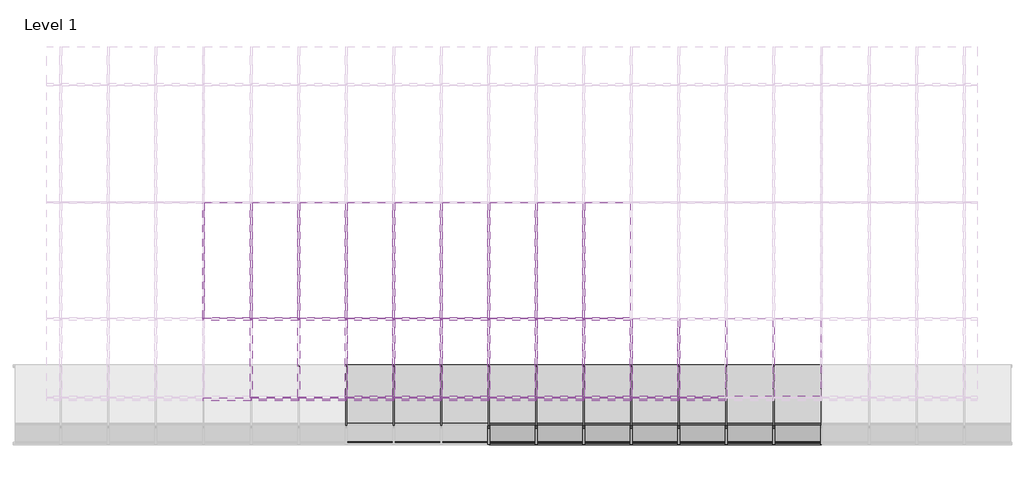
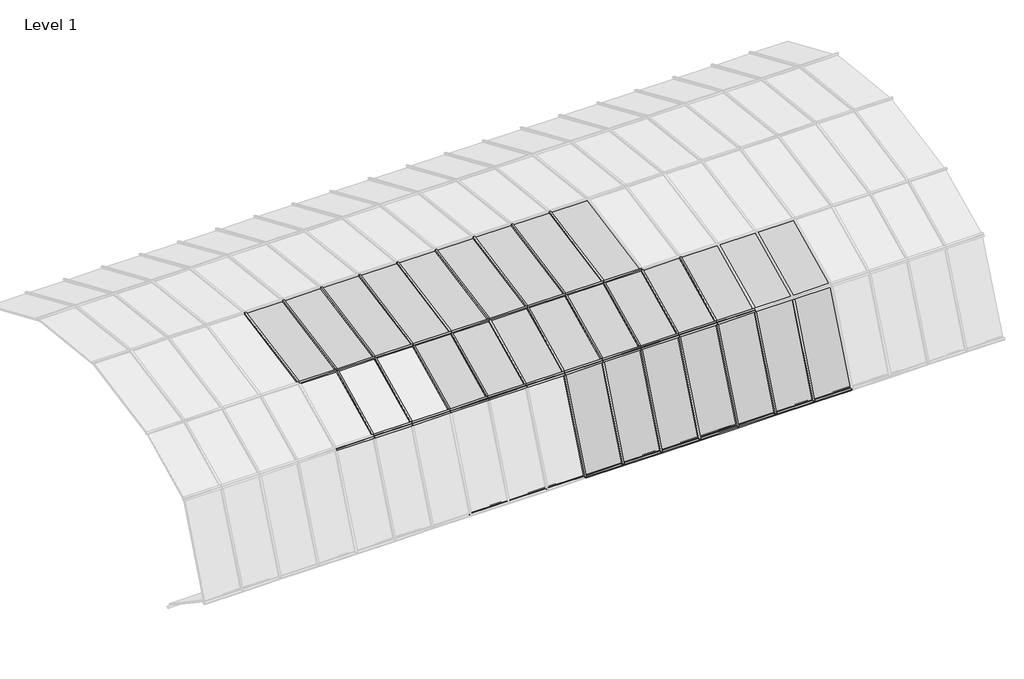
# One storey, part 18 of 23: 84 members, 36 plates.
"""IFC4 building model written with IfcOpenShell, lengths in millimetres."""

from ifc_helpers import new_model, si_unit, origin, place, context, project, spatial, transform, mapped, element, save
from components import member_68981e21, member_3e1f1dd8, member_0f8f75f6, member_42213d33, member_14e241b9, member_309acb9e, system_panel_glazed_51f493bd, system_panel_glazed_6e806f8e, system_panel_glazed_a1f64e1d, system_panel_glazed_3957fabc

model = new_model("IFC4")

# Units and contexts
model_context = context("Model", 3, world=origin())
ifc_project = project(units=[si_unit("LENGTHUNIT", "METRE", prefix="MILLI")], contexts=[model_context])

# Site, building, storey
site = spatial("IfcSite", under=ifc_project)
building = spatial("IfcBuilding", under=site)
storey = spatial("IfcBuildingStorey", under=building, Name="Level 1", Elevation=0.0)

# Members
placement = place(None, origin())
member_shape = member_68981e21(model_context)
element("IfcMember", 1, ObjectType="Rectangular Mullion : 1\" Square", at=placement, inside=storey, context=model_context, shape_type="MappedRepresentation", body=[
    mapped(member_shape, transform((-4426.5499814, 2539.8807303, 0.0), x_axis=(0.0, 0.8307182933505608, -0.5566930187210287), y_axis=(0.0, -0.5566930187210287, -0.8307182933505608), z_axis=(-1.0, 0.0, 0.0))),
])
element("IfcMember", 2, ObjectType="Rectangular Mullion : 1\" Square", at=placement, inside=storey, context=model_context, shape_type="MappedRepresentation", body=[
    mapped(member_shape, transform((-3816.9499814, 2539.8807303, 0.0), x_axis=(0.0, 0.8307182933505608, -0.5566930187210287), y_axis=(0.0, -0.5566930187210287, -0.8307182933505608), z_axis=(-1.0, 0.0, 0.0))),
])
element("IfcMember", 3, ObjectType="Rectangular Mullion : 1\" Square", at=placement, inside=storey, context=model_context, shape_type="MappedRepresentation", body=[
    mapped(member_shape, transform((-3207.3499814, 2539.8807303, 0.0), x_axis=(0.0, 0.8307182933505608, -0.5566930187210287), y_axis=(0.0, -0.5566930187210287, -0.8307182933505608), z_axis=(-1.0, 0.0, 0.0))),
])
element("IfcMember", 4, ObjectType="Rectangular Mullion : 1\" Square", at=placement, inside=storey, context=model_context, shape_type="MappedRepresentation", body=[
    mapped(member_shape, transform((-2597.7499814, 2539.8807303, 0.0), x_axis=(0.0, 0.8307182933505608, -0.5566930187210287), y_axis=(0.0, -0.5566930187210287, -0.8307182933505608), z_axis=(-1.0, 0.0, 0.0))),
])
element("IfcMember", 5, ObjectType="Rectangular Mullion : 1\" Square", at=placement, inside=storey, context=model_context, shape_type="MappedRepresentation", body=[
    mapped(member_shape, transform((-1988.1499814, 2539.8807303, 0.0), x_axis=(0.0, 0.8307182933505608, -0.5566930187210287), y_axis=(0.0, -0.5566930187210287, -0.8307182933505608), z_axis=(-1.0, 0.0, 0.0))),
])
element("IfcMember", 6, ObjectType="Rectangular Mullion : 1\" Square", at=placement, inside=storey, context=model_context, shape_type="MappedRepresentation", body=[
    mapped(member_shape, transform((-1378.5499814, 2539.8807303, 0.0), x_axis=(0.0, 0.8307182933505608, -0.5566930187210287), y_axis=(0.0, -0.5566930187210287, -0.8307182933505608), z_axis=(-1.0, 0.0, 0.0))),
])
element("IfcMember", 7, ObjectType="Rectangular Mullion : 1\" Square", at=placement, inside=storey, context=model_context, shape_type="MappedRepresentation", body=[
    mapped(member_shape, transform((-768.9499814, 2539.8807303, 0.0), x_axis=(0.0, 0.8307182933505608, -0.5566930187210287), y_axis=(0.0, -0.5566930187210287, -0.8307182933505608), z_axis=(-1.0, 0.0, 0.0))),
])
element("IfcMember", 8, ObjectType="Rectangular Mullion : 1\" Square", at=placement, inside=storey, context=model_context, shape_type="MappedRepresentation", body=[
    mapped(member_shape, transform((-159.3499814, 2539.8807303, 0.0), x_axis=(0.0, 0.8307182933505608, -0.5566930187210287), y_axis=(0.0, -0.5566930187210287, -0.8307182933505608), z_axis=(-1.0, 0.0, 0.0))),
])
element("IfcMember", 9, ObjectType="Rectangular Mullion : 1\" Square", at=placement, inside=storey, context=model_context, shape_type="MappedRepresentation", body=[
    mapped(member_shape, transform((-6255.3499814, 2539.8807303, 0.0), x_axis=(0.0, 0.8307182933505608, -0.5566930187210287), y_axis=(0.0, -0.5566930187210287, -0.8307182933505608), z_axis=(-1.0, 0.0, 0.0))),
])
element("IfcMember", 10, ObjectType="Rectangular Mullion : 1\" Square", at=placement, inside=storey, context=model_context, shape_type="MappedRepresentation", body=[
    mapped(member_shape, transform((-5645.7499814, 2539.8807303, 0.0), x_axis=(0.0, 0.8307182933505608, -0.5566930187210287), y_axis=(0.0, -0.5566930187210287, -0.8307182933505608), z_axis=(-1.0, 0.0, 0.0))),
])
element("IfcMember", 11, ObjectType="Rectangular Mullion : 1\" Square", at=placement, inside=storey, context=model_context, shape_type="MappedRepresentation", body=[
    mapped(member_shape, transform((-5036.1499814, 2539.8807303, 0.0), x_axis=(0.0, 0.8307182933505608, -0.5566930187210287), y_axis=(0.0, -0.5566930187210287, -0.8307182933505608), z_axis=(-1.0, 0.0, 0.0))),
])
element("IfcMember", 12, ObjectType="Rectangular Mullion : 1\" Square", at=placement, inside=storey, context=model_context, shape_type="MappedRepresentation", body=[
    mapped(member_shape, transform((-6864.9499814, 2108.5088854, 2085.6089632), x_axis=(0.0, -0.9009025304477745, -0.43402146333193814), y_axis=(0.0, -0.43402146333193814, 0.9009025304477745), z_axis=(-1.0, 0.0, 0.0))),
])
element("IfcMember", 13, ObjectType="Rectangular Mullion : 1\" Square", at=placement, inside=storey, context=model_context, shape_type="MappedRepresentation", body=[
    mapped(member_shape, transform((-6255.3499814, 2108.5088854, 2085.6089632), x_axis=(0.0, -0.9009025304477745, -0.43402146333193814), y_axis=(0.0, -0.43402146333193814, 0.9009025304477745), z_axis=(-1.0, 0.0, 0.0))),
])
element("IfcMember", 14, ObjectType="Rectangular Mullion : 1\" Square", at=placement, inside=storey, context=model_context, shape_type="MappedRepresentation", body=[
    mapped(member_shape, transform((-5645.7499814, 2108.5088854, 2085.6089632), x_axis=(0.0, -0.9009025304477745, -0.43402146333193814), y_axis=(0.0, -0.43402146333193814, 0.9009025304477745), z_axis=(-1.0, 0.0, 0.0))),
])
element("IfcMember", 15, ObjectType="Rectangular Mullion : 1\" Square", at=placement, inside=storey, context=model_context, shape_type="MappedRepresentation", body=[
    mapped(member_shape, transform((-5036.1499814, 2108.5088854, 2085.6089632), x_axis=(0.0, -0.9009025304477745, -0.43402146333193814), y_axis=(0.0, -0.43402146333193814, 0.9009025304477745), z_axis=(-1.0, 0.0, 0.0))),
])
element("IfcMember", 16, ObjectType="Rectangular Mullion : 1\" Square", at=placement, inside=storey, context=model_context, shape_type="MappedRepresentation", body=[
    mapped(member_shape, transform((-4426.5499814, 2108.5088854, 2085.6089632), x_axis=(0.0, -0.9009025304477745, -0.43402146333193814), y_axis=(0.0, -0.43402146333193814, 0.9009025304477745), z_axis=(-1.0, 0.0, 0.0))),
])
element("IfcMember", 17, ObjectType="Rectangular Mullion : 1\" Square", at=placement, inside=storey, context=model_context, shape_type="MappedRepresentation", body=[
    mapped(member_shape, transform((-3816.9499814, 2108.5088854, 2085.6089632), x_axis=(0.0, -0.9009025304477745, -0.43402146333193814), y_axis=(0.0, -0.43402146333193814, 0.9009025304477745), z_axis=(-1.0, 0.0, 0.0))),
])
element("IfcMember", 18, ObjectType="Rectangular Mullion : 1\" Square", at=placement, inside=storey, context=model_context, shape_type="MappedRepresentation", body=[
    mapped(member_shape, transform((-3207.3499814, 2108.5088854, 2085.6089632), x_axis=(0.0, -0.9009025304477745, -0.43402146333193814), y_axis=(0.0, -0.43402146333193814, 0.9009025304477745), z_axis=(-1.0, 0.0, 0.0))),
])
element("IfcMember", 19, ObjectType="Rectangular Mullion : 1\" Square", at=placement, inside=storey, context=model_context, shape_type="MappedRepresentation", body=[
    mapped(member_shape, transform((-2597.7499814, 2108.5088854, 2085.6089632), x_axis=(0.0, -0.9009025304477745, -0.43402146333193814), y_axis=(0.0, -0.43402146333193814, 0.9009025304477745), z_axis=(-1.0, 0.0, 0.0))),
])
element("IfcMember", 20, ObjectType="Rectangular Mullion : 1\" Square", at=placement, inside=storey, context=model_context, shape_type="MappedRepresentation", body=[
    mapped(member_shape, transform((-1988.1499814, 2108.5088854, 2085.6089632), x_axis=(0.0, -0.9009025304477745, -0.43402146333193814), y_axis=(0.0, -0.43402146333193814, 0.9009025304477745), z_axis=(-1.0, 0.0, 0.0))),
])
element("IfcMember", 21, ObjectType="Rectangular Mullion : 1\" Square", at=placement, inside=storey, context=model_context, shape_type="MappedRepresentation", body=[
    mapped(member_shape, transform((-1378.5499814, 2108.5088854, 2085.6089632), x_axis=(0.0, -0.9009025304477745, -0.43402146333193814), y_axis=(0.0, -0.43402146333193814, 0.9009025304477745), z_axis=(-1.0, 0.0, 0.0))),
])
member_2_shape = member_3e1f1dd8(model_context)
element("IfcMember", 22, ObjectType="Rectangular Mullion : 1\" Square", at=placement, inside=storey, context=model_context, shape_type="MappedRepresentation", body=[
    mapped(member_2_shape, transform((-3816.9499814, 1534.1192339, 673.9955146), x_axis=(0.0, 0.38018576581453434, -0.9249101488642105), y_axis=(0.0, -0.9249101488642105, -0.38018576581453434), z_axis=(-1.0, 0.0, 0.0))),
])
element("IfcMember", 23, ObjectType="Rectangular Mullion : 1\" Square", at=placement, inside=storey, context=model_context, shape_type="MappedRepresentation", body=[
    mapped(member_2_shape, transform((-3207.3499814, 1534.1192339, 673.9955146), x_axis=(0.0, 0.38018576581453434, -0.9249101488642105), y_axis=(0.0, -0.9249101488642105, -0.38018576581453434), z_axis=(-1.0, 0.0, 0.0))),
])
element("IfcMember", 24, ObjectType="Rectangular Mullion : 1\" Square", at=placement, inside=storey, context=model_context, shape_type="MappedRepresentation", body=[
    mapped(member_2_shape, transform((-2597.7499814, 1534.1192339, 673.9955146), x_axis=(0.0, 0.38018576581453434, -0.9249101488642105), y_axis=(0.0, -0.9249101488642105, -0.38018576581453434), z_axis=(-1.0, 0.0, 0.0))),
])
element("IfcMember", 25, ObjectType="Rectangular Mullion : 1\" Square", at=placement, inside=storey, context=model_context, shape_type="MappedRepresentation", body=[
    mapped(member_2_shape, transform((-1988.1499814, 1534.1192339, 673.9955146), x_axis=(0.0, 0.38018576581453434, -0.9249101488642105), y_axis=(0.0, -0.9249101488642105, -0.38018576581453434), z_axis=(-1.0, 0.0, 0.0))),
])
element("IfcMember", 26, ObjectType="Rectangular Mullion : 1\" Square", at=placement, inside=storey, context=model_context, shape_type="MappedRepresentation", body=[
    mapped(member_2_shape, transform((-1378.5499814, 1534.1192339, 673.9955146), x_axis=(0.0, 0.38018576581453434, -0.9249101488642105), y_axis=(0.0, -0.9249101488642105, -0.38018576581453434), z_axis=(-1.0, 0.0, 0.0))),
])
element("IfcMember", 27, ObjectType="Rectangular Mullion : 1\" Square", at=placement, inside=storey, context=model_context, shape_type="MappedRepresentation", body=[
    mapped(member_2_shape, transform((-768.9499814, 1534.1192339, 673.9955146), x_axis=(0.0, 0.38018576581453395, -0.9249101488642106), y_axis=(0.0, -0.9249101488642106, -0.38018576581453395), z_axis=(-1.0, 0.0, 0.0))),
])
element("IfcMember", 28, ObjectType="Rectangular Mullion : 1\" Square", at=placement, inside=storey, context=model_context, shape_type="MappedRepresentation", body=[
    mapped(member_2_shape, transform((-159.3499814, 1534.1192339, 673.9955146), x_axis=(0.0, 0.38018576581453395, -0.9249101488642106), y_axis=(0.0, -0.9249101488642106, -0.38018576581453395), z_axis=(-1.0, 0.0, 0.0))),
])
element("IfcMember", 29, ObjectType="Rectangular Mullion : 1\" Square", at=placement, inside=storey, context=model_context, shape_type="MappedRepresentation", body=[
    mapped(member_2_shape, transform((-7474.5499814, 3134.3722562, 2579.8319299), x_axis=(0.0, -0.9436447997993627, -0.33095995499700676), y_axis=(0.0, -0.33095995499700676, 0.9436447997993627), z_axis=(-1.0, 0.0, 0.0))),
])
element("IfcMember", 30, ObjectType="Rectangular Mullion : 1\" Square", at=placement, inside=storey, context=model_context, shape_type="MappedRepresentation", body=[
    mapped(member_2_shape, transform((-6864.9499814, 3134.3722562, 2579.8319299), x_axis=(0.0, -0.9436447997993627, -0.33095995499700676), y_axis=(0.0, -0.33095995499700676, 0.9436447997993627), z_axis=(-1.0, 0.0, 0.0))),
])
element("IfcMember", 31, ObjectType="Rectangular Mullion : 1\" Square", at=placement, inside=storey, context=model_context, shape_type="MappedRepresentation", body=[
    mapped(member_2_shape, transform((-6255.3499814, 3134.3722562, 2579.8319299), x_axis=(0.0, -0.9436447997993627, -0.33095995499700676), y_axis=(0.0, -0.33095995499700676, 0.9436447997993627), z_axis=(-1.0, 0.0, 0.0))),
])
element("IfcMember", 32, ObjectType="Rectangular Mullion : 1\" Square", at=placement, inside=storey, context=model_context, shape_type="MappedRepresentation", body=[
    mapped(member_2_shape, transform((-5645.7499814, 3134.3722562, 2579.8319299), x_axis=(0.0, -0.9436447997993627, -0.33095995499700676), y_axis=(0.0, -0.33095995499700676, 0.9436447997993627), z_axis=(-1.0, 0.0, 0.0))),
])
element("IfcMember", 33, ObjectType="Rectangular Mullion : 1\" Square", at=placement, inside=storey, context=model_context, shape_type="MappedRepresentation", body=[
    mapped(member_2_shape, transform((-5036.1499814, 3134.3722562, 2579.8319299), x_axis=(0.0, -0.9436447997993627, -0.33095995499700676), y_axis=(0.0, -0.33095995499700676, 0.9436447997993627), z_axis=(-1.0, 0.0, 0.0))),
])
element("IfcMember", 34, ObjectType="Rectangular Mullion : 1\" Square", at=placement, inside=storey, context=model_context, shape_type="MappedRepresentation", body=[
    mapped(member_2_shape, transform((-4426.5499814, 3134.3722562, 2579.8319299), x_axis=(0.0, -0.9436447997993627, -0.33095995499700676), y_axis=(0.0, -0.33095995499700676, 0.9436447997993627), z_axis=(-1.0, 0.0, 0.0))),
])
element("IfcMember", 35, ObjectType="Rectangular Mullion : 1\" Square", at=placement, inside=storey, context=model_context, shape_type="MappedRepresentation", body=[
    mapped(member_2_shape, transform((-3816.9499814, 3134.3722562, 2579.8319299), x_axis=(0.0, -0.9436447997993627, -0.33095995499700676), y_axis=(0.0, -0.33095995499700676, 0.9436447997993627), z_axis=(-1.0, 0.0, 0.0))),
])
element("IfcMember", 36, ObjectType="Rectangular Mullion : 1\" Square", at=placement, inside=storey, context=model_context, shape_type="MappedRepresentation", body=[
    mapped(member_2_shape, transform((-3207.3499814, 3134.3722562, 2579.8319299), x_axis=(0.0, -0.9436447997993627, -0.33095995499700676), y_axis=(0.0, -0.33095995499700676, 0.9436447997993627), z_axis=(-1.0, 0.0, 0.0))),
])
element("IfcMember", 37, ObjectType="Rectangular Mullion : 1\" Square", at=placement, inside=storey, context=model_context, shape_type="MappedRepresentation", body=[
    mapped(member_2_shape, transform((-2597.7499814, 3134.3722562, 2579.8319299), x_axis=(0.0, -0.9436447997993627, -0.33095995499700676), y_axis=(0.0, -0.33095995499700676, 0.9436447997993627), z_axis=(-1.0, 0.0, 0.0))),
])
element("IfcMember", 38, ObjectType="Rectangular Mullion : 1\" Square", at=placement, inside=storey, context=model_context, shape_type="MappedRepresentation", body=[
    mapped(member_shape, transform((-1988.1499814, 2108.5088854, 2085.6089632), x_axis=(0.0, 0.3768960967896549, 0.9262555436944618), y_axis=(0.0, -0.9262555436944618, 0.3768960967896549), z_axis=(1.0, 0.0, 0.0))),
])
element("IfcMember", 39, ObjectType="Rectangular Mullion : 1\" Square", at=placement, inside=storey, context=model_context, shape_type="MappedRepresentation", body=[
    mapped(member_shape, transform((-1378.5499814, 2108.5088854, 2085.6089632), x_axis=(0.0, 0.3768960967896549, 0.9262555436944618), y_axis=(0.0, -0.9262555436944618, 0.3768960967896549), z_axis=(1.0, 0.0, 0.0))),
])
element("IfcMember", 40, ObjectType="Rectangular Mullion : 1\" Square", at=placement, inside=storey, context=model_context, shape_type="MappedRepresentation", body=[
    mapped(member_shape, transform((-768.9499814, 2108.5088854, 2085.6089632), x_axis=(0.0, 0.3768960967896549, 0.9262555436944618), y_axis=(0.0, -0.9262555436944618, 0.3768960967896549), z_axis=(1.0, 0.0, 0.0))),
])
element("IfcMember", 41, ObjectType="Rectangular Mullion : 1\" Square", at=placement, inside=storey, context=model_context, shape_type="MappedRepresentation", body=[
    mapped(member_shape, transform((-6864.9499814, 2108.5088854, 2085.6089632), x_axis=(0.0, 0.3768960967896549, 0.9262555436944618), y_axis=(0.0, -0.9262555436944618, 0.3768960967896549), z_axis=(1.0, 0.0, 0.0))),
])
element("IfcMember", 42, ObjectType="Rectangular Mullion : 1\" Square", at=placement, inside=storey, context=model_context, shape_type="MappedRepresentation", body=[
    mapped(member_shape, transform((-6255.3499814, 2108.5088854, 2085.6089632), x_axis=(0.0, 0.3768960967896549, 0.9262555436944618), y_axis=(0.0, -0.9262555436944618, 0.3768960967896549), z_axis=(1.0, 0.0, 0.0))),
])
element("IfcMember", 43, ObjectType="Rectangular Mullion : 1\" Square", at=placement, inside=storey, context=model_context, shape_type="MappedRepresentation", body=[
    mapped(member_shape, transform((-5645.7499814, 2108.5088854, 2085.6089632), x_axis=(0.0, 0.3768960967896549, 0.9262555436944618), y_axis=(0.0, -0.9262555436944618, 0.3768960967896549), z_axis=(1.0, 0.0, 0.0))),
])
element("IfcMember", 44, ObjectType="Rectangular Mullion : 1\" Square", at=placement, inside=storey, context=model_context, shape_type="MappedRepresentation", body=[
    mapped(member_shape, transform((-5036.1499814, 2108.5088854, 2085.6089632), x_axis=(0.0, 0.3768960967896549, 0.9262555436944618), y_axis=(0.0, -0.9262555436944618, 0.3768960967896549), z_axis=(1.0, 0.0, 0.0))),
])
element("IfcMember", 45, ObjectType="Rectangular Mullion : 1\" Square", at=placement, inside=storey, context=model_context, shape_type="MappedRepresentation", body=[
    mapped(member_shape, transform((-4426.5499814, 2108.5088854, 2085.6089632), x_axis=(0.0, 0.3768960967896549, 0.9262555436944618), y_axis=(0.0, -0.9262555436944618, 0.3768960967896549), z_axis=(1.0, 0.0, 0.0))),
])
element("IfcMember", 46, ObjectType="Rectangular Mullion : 1\" Square", at=placement, inside=storey, context=model_context, shape_type="MappedRepresentation", body=[
    mapped(member_shape, transform((-3816.9499814, 2108.5088854, 2085.6089632), x_axis=(0.0, 0.37689609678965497, 0.9262555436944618), y_axis=(0.0, -0.9262555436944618, 0.37689609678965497), z_axis=(1.0, 0.0, 0.0))),
])
element("IfcMember", 47, ObjectType="Rectangular Mullion : 1\" Square", at=placement, inside=storey, context=model_context, shape_type="MappedRepresentation", body=[
    mapped(member_shape, transform((-3207.3499814, 2108.5088854, 2085.6089632), x_axis=(0.0, 0.3768960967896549, 0.9262555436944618), y_axis=(0.0, -0.9262555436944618, 0.3768960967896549), z_axis=(1.0, 0.0, 0.0))),
])
element("IfcMember", 48, ObjectType="Rectangular Mullion : 1\" Square", at=placement, inside=storey, context=model_context, shape_type="MappedRepresentation", body=[
    mapped(member_shape, transform((-2597.7499814, 2108.5088854, 2085.6089632), x_axis=(0.0, 0.3768960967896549, 0.9262555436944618), y_axis=(0.0, -0.9262555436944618, 0.3768960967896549), z_axis=(1.0, 0.0, 0.0))),
])
member_3_shape = member_0f8f75f6(model_context)
element("IfcMember", 49, ObjectType="Rectangular Mullion : 1\" Square", at=placement, inside=storey, context=model_context, shape_type="MappedRepresentation", body=[
    mapped(member_3_shape, transform((-159.3499814, 2518.7804857, 14.1400027), x_axis=(1.0, 0.0, 0.0), y_axis=(0.0, -0.5566930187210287, -0.8307182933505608), z_axis=(0.0, 0.8307182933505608, -0.5566930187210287))),
])
element("IfcMember", 50, ObjectType="Rectangular Mullion : 1\" Square", at=placement, inside=storey, context=model_context, shape_type="MappedRepresentation", body=[
    mapped(member_3_shape, transform((-3816.9499814, 2518.7804857, 14.1400027), x_axis=(1.0, 0.0, 0.0), y_axis=(0.0, -0.5566930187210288, -0.8307182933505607), z_axis=(0.0, 0.8307182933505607, -0.5566930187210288))),
])
element("IfcMember", 51, ObjectType="Rectangular Mullion : 1\" Square", at=placement, inside=storey, context=model_context, shape_type="MappedRepresentation", body=[
    mapped(member_3_shape, transform((-3207.3499814, 2518.7804857, 14.1400027), x_axis=(1.0, 0.0, 0.0), y_axis=(0.0, -0.5566930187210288, -0.8307182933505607), z_axis=(0.0, 0.8307182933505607, -0.5566930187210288))),
])
element("IfcMember", 52, ObjectType="Rectangular Mullion : 1\" Square", at=placement, inside=storey, context=model_context, shape_type="MappedRepresentation", body=[
    mapped(member_3_shape, transform((-2597.7499814, 2518.7804857, 14.1400027), x_axis=(1.0, 0.0, 0.0), y_axis=(0.0, -0.5566930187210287, -0.8307182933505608), z_axis=(0.0, 0.8307182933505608, -0.5566930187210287))),
])
element("IfcMember", 53, ObjectType="Rectangular Mullion : 1\" Square", at=placement, inside=storey, context=model_context, shape_type="MappedRepresentation", body=[
    mapped(member_3_shape, transform((-1988.1499814, 2518.7804857, 14.1400027), x_axis=(1.0, 0.0, 0.0), y_axis=(0.0, -0.5566930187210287, -0.8307182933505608), z_axis=(0.0, 0.8307182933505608, -0.5566930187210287))),
])
element("IfcMember", 54, ObjectType="Rectangular Mullion : 1\" Square", at=placement, inside=storey, context=model_context, shape_type="MappedRepresentation", body=[
    mapped(member_3_shape, transform((-1378.5499814, 2518.7804857, 14.1400027), x_axis=(1.0, 0.0, 0.0), y_axis=(0.0, -0.5566930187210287, -0.8307182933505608), z_axis=(0.0, 0.8307182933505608, -0.5566930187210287))),
])
element("IfcMember", 55, ObjectType="Rectangular Mullion : 1\" Square", at=placement, inside=storey, context=model_context, shape_type="MappedRepresentation", body=[
    mapped(member_3_shape, transform((-768.9499814, 2518.7804857, 14.1400027), x_axis=(1.0, 0.0, 0.0), y_axis=(0.0, -0.5566930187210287, -0.8307182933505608), z_axis=(0.0, 0.8307182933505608, -0.5566930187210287))),
])
element("IfcMember", 56, ObjectType="Rectangular Mullion : 1\" Square", at=placement, inside=storey, context=model_context, shape_type="MappedRepresentation", body=[
    mapped(member_3_shape, transform((-5645.7499814, 2518.7804857, 14.1400027), x_axis=(1.0, 0.0, 0.0), y_axis=(0.0, -0.5566930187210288, -0.8307182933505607), z_axis=(0.0, 0.8307182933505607, -0.5566930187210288))),
])
element("IfcMember", 57, ObjectType="Rectangular Mullion : 1\" Square", at=placement, inside=storey, context=model_context, shape_type="MappedRepresentation", body=[
    mapped(member_3_shape, transform((-5036.1499814, 2518.7804857, 14.1400027), x_axis=(1.0, 0.0, 0.0), y_axis=(0.0, -0.5566930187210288, -0.8307182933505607), z_axis=(0.0, 0.8307182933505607, -0.5566930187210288))),
])
element("IfcMember", 58, ObjectType="Rectangular Mullion : 1\" Square", at=placement, inside=storey, context=model_context, shape_type="MappedRepresentation", body=[
    mapped(member_3_shape, transform((-4426.5499814, 2518.7804857, 14.1400027), x_axis=(1.0, 0.0, 0.0), y_axis=(0.0, -0.5566930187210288, -0.8307182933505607), z_axis=(0.0, 0.8307182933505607, -0.5566930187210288))),
])
member_4_shape = member_42213d33(model_context)
element("IfcMember", 59, ObjectType="Rectangular Mullion : 1\" Square", at=placement, inside=storey, context=model_context, shape_type="MappedRepresentation", body=[
    mapped(member_4_shape, transform((-159.3499814, 1538.9058143, 685.75896), x_axis=(1.0, 0.0, 0.0), y_axis=(0.0, -0.9262555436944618, 0.37689609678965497), z_axis=(0.0, -0.37689609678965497, -0.9262555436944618))),
])
element("IfcMember", 60, ObjectType="Rectangular Mullion : 1\" Square", at=placement, inside=storey, context=model_context, shape_type="MappedRepresentation", body=[
    mapped(member_4_shape, transform((-3207.3499814, 1538.9058143, 685.75896), x_axis=(1.0, 0.0, 0.0), y_axis=(0.0, -0.9262555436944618, 0.3768960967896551), z_axis=(0.0, -0.3768960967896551, -0.9262555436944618))),
])
element("IfcMember", 61, ObjectType="Rectangular Mullion : 1\" Square", at=placement, inside=storey, context=model_context, shape_type="MappedRepresentation", body=[
    mapped(member_4_shape, transform((-2597.7499814, 1538.9058143, 685.75896), x_axis=(1.0, 0.0, 0.0), y_axis=(0.0, -0.9262555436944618, 0.3768960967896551), z_axis=(0.0, -0.3768960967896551, -0.9262555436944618))),
])
element("IfcMember", 62, ObjectType="Rectangular Mullion : 1\" Square", at=placement, inside=storey, context=model_context, shape_type="MappedRepresentation", body=[
    mapped(member_4_shape, transform((-1988.1499814, 1538.9058143, 685.75896), x_axis=(1.0, 0.0, 0.0), y_axis=(0.0, -0.9262555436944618, 0.3768960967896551), z_axis=(0.0, -0.3768960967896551, -0.9262555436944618))),
])
element("IfcMember", 63, ObjectType="Rectangular Mullion : 1\" Square", at=placement, inside=storey, context=model_context, shape_type="MappedRepresentation", body=[
    mapped(member_4_shape, transform((-1378.5499814, 1538.9058143, 685.75896), x_axis=(1.0, 0.0, 0.0), y_axis=(0.0, -0.9262555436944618, 0.3768960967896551), z_axis=(0.0, -0.3768960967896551, -0.9262555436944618))),
])
element("IfcMember", 64, ObjectType="Rectangular Mullion : 1\" Square", at=placement, inside=storey, context=model_context, shape_type="MappedRepresentation", body=[
    mapped(member_4_shape, transform((-768.9499814, 1538.9058143, 685.75896), x_axis=(1.0, 0.0, 0.0), y_axis=(0.0, -0.9262555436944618, 0.37689609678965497), z_axis=(0.0, -0.37689609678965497, -0.9262555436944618))),
])
element("IfcMember", 65, ObjectType="Rectangular Mullion : 1\" Square", at=placement, inside=storey, context=model_context, shape_type="MappedRepresentation", body=[
    mapped(member_4_shape, transform((-3816.9499814, 1538.9058143, 685.75896), x_axis=(1.0, 0.0, 0.0), y_axis=(0.0, -0.9262555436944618, 0.376896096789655), z_axis=(0.0, -0.37689609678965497, -0.9262555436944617))),
])
member_5_shape = member_14e241b9(model_context)
element("IfcMember", 66, ObjectType="Rectangular Mullion : 1\" Square", at=placement, inside=storey, context=model_context, shape_type="MappedRepresentation", body=[
    mapped(member_5_shape, transform((-2597.7499814, 2131.3918096, 2096.6331083), x_axis=(1.0, 0.0, 0.0), y_axis=(0.0, -0.43402146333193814, 0.9009025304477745), z_axis=(0.0, -0.9009025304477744, -0.4340214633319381))),
])
element("IfcMember", 67, ObjectType="Rectangular Mullion : 1\" Square", at=placement, inside=storey, context=model_context, shape_type="MappedRepresentation", body=[
    mapped(member_5_shape, transform((-1988.1499814, 2131.3918096, 2096.6331083), x_axis=(1.0, 0.0, 0.0), y_axis=(0.0, -0.43402146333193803, 0.9009025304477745), z_axis=(0.0, -0.9009025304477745, -0.43402146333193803))),
])
element("IfcMember", 68, ObjectType="Rectangular Mullion : 1\" Square", at=placement, inside=storey, context=model_context, shape_type="MappedRepresentation", body=[
    mapped(member_5_shape, transform((-1378.5499814, 2131.3918096, 2096.6331083), x_axis=(1.0, 0.0, 0.0), y_axis=(0.0, -0.4340214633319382, 0.9009025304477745), z_axis=(0.0, -0.9009025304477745, -0.4340214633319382))),
])
element("IfcMember", 69, ObjectType="Rectangular Mullion : 1\" Square", at=placement, inside=storey, context=model_context, shape_type="MappedRepresentation", body=[
    mapped(member_5_shape, transform((-5645.7499814, 2131.3918096, 2096.6331083), x_axis=(1.0, 0.0, 0.0), y_axis=(0.0, -0.43402146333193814, 0.9009025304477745), z_axis=(0.0, -0.9009025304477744, -0.4340214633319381))),
])
element("IfcMember", 70, ObjectType="Rectangular Mullion : 1\" Square", at=placement, inside=storey, context=model_context, shape_type="MappedRepresentation", body=[
    mapped(member_5_shape, transform((-5036.1499814, 2131.3918096, 2096.6331083), x_axis=(1.0, 0.0, 0.0), y_axis=(0.0, -0.43402146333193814, 0.9009025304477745), z_axis=(0.0, -0.9009025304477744, -0.4340214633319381))),
])
element("IfcMember", 71, ObjectType="Rectangular Mullion : 1\" Square", at=placement, inside=storey, context=model_context, shape_type="MappedRepresentation", body=[
    mapped(member_5_shape, transform((-4426.5499814, 2131.3918096, 2096.6331083), x_axis=(1.0, 0.0, 0.0), y_axis=(0.0, -0.43402146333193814, 0.9009025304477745), z_axis=(0.0, -0.9009025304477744, -0.4340214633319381))),
])
element("IfcMember", 72, ObjectType="Rectangular Mullion : 1\" Square", at=placement, inside=storey, context=model_context, shape_type="MappedRepresentation", body=[
    mapped(member_5_shape, transform((-3816.9499814, 2131.3918096, 2096.6331083), x_axis=(1.0, 0.0, 0.0), y_axis=(0.0, -0.43402146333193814, 0.9009025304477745), z_axis=(0.0, -0.9009025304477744, -0.4340214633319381))),
])
element("IfcMember", 73, ObjectType="Rectangular Mullion : 1\" Square", at=placement, inside=storey, context=model_context, shape_type="MappedRepresentation", body=[
    mapped(member_5_shape, transform((-3207.3499814, 2131.3918096, 2096.6331083), x_axis=(1.0, 0.0, 0.0), y_axis=(0.0, -0.43402146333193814, 0.9009025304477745), z_axis=(0.0, -0.9009025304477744, -0.4340214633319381))),
])
element("IfcMember", 74, ObjectType="Rectangular Mullion : 1\" Square", at=placement, inside=storey, context=model_context, shape_type="MappedRepresentation", body=[
    mapped(member_5_shape, transform((-6864.9499814, 2131.3918096, 2096.6331083), x_axis=(1.0, 0.0, 0.0), y_axis=(0.0, -0.4340214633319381, 0.9009025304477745), z_axis=(0.0, -0.9009025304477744, -0.43402146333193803))),
])
element("IfcMember", 75, ObjectType="Rectangular Mullion : 1\" Square", at=placement, inside=storey, context=model_context, shape_type="MappedRepresentation", body=[
    mapped(member_5_shape, transform((-6255.3499814, 2131.3918096, 2096.6331083), x_axis=(1.0, 0.0, 0.0), y_axis=(0.0, -0.43402146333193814, 0.9009025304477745), z_axis=(0.0, -0.9009025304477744, -0.4340214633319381))),
])
member_6_shape = member_309acb9e(model_context)
element("IfcMember", 76, ObjectType="Rectangular Mullion : 1\" Square", at=placement, inside=storey, context=model_context, shape_type="MappedRepresentation", body=[
    mapped(member_6_shape, transform((-5645.7499814, 3146.8492645, 2582.2013738), x_axis=(1.0, 0.0, 0.0), y_axis=(0.0, -0.18657038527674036, 0.9824415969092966), z_axis=(0.0, -0.9824415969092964, -0.18657038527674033))),
])
element("IfcMember", 77, ObjectType="Rectangular Mullion : 1\" Square", at=placement, inside=storey, context=model_context, shape_type="MappedRepresentation", body=[
    mapped(member_6_shape, transform((-5036.1499814, 3146.8492645, 2582.2013738), x_axis=(1.0, 0.0, 0.0), y_axis=(0.0, -0.18657038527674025, 0.9824415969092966), z_axis=(0.0, -0.9824415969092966, -0.18657038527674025))),
])
element("IfcMember", 78, ObjectType="Rectangular Mullion : 1\" Square", at=placement, inside=storey, context=model_context, shape_type="MappedRepresentation", body=[
    mapped(member_6_shape, transform((-4426.5499814, 3146.8492645, 2582.2013738), x_axis=(1.0, 0.0, 0.0), y_axis=(0.0, -0.18657038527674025, 0.9824415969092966), z_axis=(0.0, -0.9824415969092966, -0.18657038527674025))),
])
element("IfcMember", 79, ObjectType="Rectangular Mullion : 1\" Square", at=placement, inside=storey, context=model_context, shape_type="MappedRepresentation", body=[
    mapped(member_6_shape, transform((-3816.9499814, 3146.8492645, 2582.2013738), x_axis=(1.0, 0.0, 0.0), y_axis=(0.0, -0.18657038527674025, 0.9824415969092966), z_axis=(0.0, -0.9824415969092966, -0.18657038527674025))),
])
element("IfcMember", 80, ObjectType="Rectangular Mullion : 1\" Square", at=placement, inside=storey, context=model_context, shape_type="MappedRepresentation", body=[
    mapped(member_6_shape, transform((-3207.3499814, 3146.8492645, 2582.2013738), x_axis=(1.0, 0.0, 0.0), y_axis=(0.0, -0.18657038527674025, 0.9824415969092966), z_axis=(0.0, -0.9824415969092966, -0.18657038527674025))),
])
element("IfcMember", 81, ObjectType="Rectangular Mullion : 1\" Square", at=placement, inside=storey, context=model_context, shape_type="MappedRepresentation", body=[
    mapped(member_6_shape, transform((-2597.7499814, 3146.8492645, 2582.2013738), x_axis=(1.0, 0.0, 0.0), y_axis=(0.0, -0.18657038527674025, 0.9824415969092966), z_axis=(0.0, -0.9824415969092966, -0.18657038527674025))),
])
element("IfcMember", 82, ObjectType="Rectangular Mullion : 1\" Square", at=placement, inside=storey, context=model_context, shape_type="MappedRepresentation", body=[
    mapped(member_6_shape, transform((-7474.5499814, 3146.8492645, 2582.2013738), x_axis=(1.0, 0.0, 0.0), y_axis=(0.0, -0.18657038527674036, 0.9824415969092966), z_axis=(0.0, -0.9824415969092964, -0.18657038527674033))),
])
element("IfcMember", 83, ObjectType="Rectangular Mullion : 1\" Square", at=placement, inside=storey, context=model_context, shape_type="MappedRepresentation", body=[
    mapped(member_6_shape, transform((-6864.9499814, 3146.8492645, 2582.2013738), x_axis=(1.0, 0.0, 0.0), y_axis=(0.0, -0.18657038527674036, 0.9824415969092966), z_axis=(0.0, -0.9824415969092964, -0.18657038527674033))),
])
element("IfcMember", 84, ObjectType="Rectangular Mullion : 1\" Square", at=placement, inside=storey, context=model_context, shape_type="MappedRepresentation", body=[
    mapped(member_6_shape, transform((-6255.3499814, 3146.8492645, 2582.2013738), x_axis=(1.0, 0.0, 0.0), y_axis=(0.0, -0.18657038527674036, 0.9824415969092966), z_axis=(0.0, -0.9824415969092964, -0.18657038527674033))),
])

# Plates
system_panel_glazed_shape = system_panel_glazed_51f493bd(model_context)
element("IfcPlate", 85, ObjectType="System Panel : Glazed", at=placement, inside=storey, context=model_context, shape_type="MappedRepresentation", body=[
    mapped(system_panel_glazed_shape, transform((-3804.2499814, 1818.9207694, 1373.9205162), x_axis=(0.0, -0.3768960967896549, -0.9262555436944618), y_axis=(0.0, 0.9262555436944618, -0.3768960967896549), z_axis=(1.0, 0.0, 0.0))),
])
element("IfcPlate", 86, ObjectType="System Panel : Glazed", at=placement, inside=storey, context=model_context, shape_type="MappedRepresentation", body=[
    mapped(system_panel_glazed_shape, transform((-3194.6499814, 1818.9207694, 1373.9205162), x_axis=(0.0, -0.3768960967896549, -0.9262555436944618), y_axis=(0.0, 0.9262555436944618, -0.3768960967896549), z_axis=(1.0, 0.0, 0.0))),
])
element("IfcPlate", 87, ObjectType="System Panel : Glazed", at=placement, inside=storey, context=model_context, shape_type="MappedRepresentation", body=[
    mapped(system_panel_glazed_shape, transform((-2585.0499814, 1818.9207694, 1373.9205162), x_axis=(0.0, -0.3768960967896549, -0.9262555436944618), y_axis=(0.0, 0.9262555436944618, -0.3768960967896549), z_axis=(1.0, 0.0, 0.0))),
])
element("IfcPlate", 88, ObjectType="System Panel : Glazed", at=placement, inside=storey, context=model_context, shape_type="MappedRepresentation", body=[
    mapped(system_panel_glazed_shape, transform((-1975.4499814, 1818.9207694, 1373.9205162), x_axis=(0.0, -0.3768960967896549, -0.9262555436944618), y_axis=(0.0, 0.9262555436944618, -0.3768960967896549), z_axis=(1.0, 0.0, 0.0))),
])
element("IfcPlate", 89, ObjectType="System Panel : Glazed", at=placement, inside=storey, context=model_context, shape_type="MappedRepresentation", body=[
    mapped(system_panel_glazed_shape, transform((-1365.8499814, 1818.9207694, 1373.9205162), x_axis=(0.0, -0.3768960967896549, -0.9262555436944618), y_axis=(0.0, 0.9262555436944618, -0.3768960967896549), z_axis=(1.0, 0.0, 0.0))),
])
element("IfcPlate", 90, ObjectType="System Panel : Glazed", at=placement, inside=storey, context=model_context, shape_type="MappedRepresentation", body=[
    mapped(system_panel_glazed_shape, transform((-756.2499814, 1818.9207694, 1373.9205162), x_axis=(0.0, -0.3768960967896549, -0.9262555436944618), y_axis=(0.0, 0.9262555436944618, -0.3768960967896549), z_axis=(1.0, 0.0, 0.0))),
])
element("IfcPlate", 91, ObjectType="System Panel : Glazed", at=placement, inside=storey, context=model_context, shape_type="MappedRepresentation", body=[
    mapped(system_panel_glazed_shape, transform((-146.6499814, 1818.9207694, 1373.9205162), x_axis=(0.0, -0.3768960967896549, -0.9262555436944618), y_axis=(0.0, 0.9262555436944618, -0.3768960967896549), z_axis=(1.0, 0.0, 0.0))),
])
system_panel_glazed_2_shape = system_panel_glazed_6e806f8e(model_context)
element("IfcPlate", 92, ObjectType="System Panel : Glazed", at=placement, inside=storey, context=model_context, shape_type="MappedRepresentation", body=[
    mapped(system_panel_glazed_2_shape, transform((-7461.8499814, 3882.992753, 2721.9985635), x_axis=(0.0, -0.9824415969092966, -0.18657038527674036), y_axis=(0.0, 0.18657038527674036, -0.9824415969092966), z_axis=(1.0, 0.0, 0.0))),
])
element("IfcPlate", 93, ObjectType="System Panel : Glazed", at=placement, inside=storey, context=model_context, shape_type="MappedRepresentation", body=[
    mapped(system_panel_glazed_2_shape, transform((-6852.2499814, 3882.992753, 2721.9985635), x_axis=(0.0, -0.9824415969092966, -0.18657038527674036), y_axis=(0.0, 0.18657038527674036, -0.9824415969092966), z_axis=(1.0, 0.0, 0.0))),
])
element("IfcPlate", 94, ObjectType="System Panel : Glazed", at=placement, inside=storey, context=model_context, shape_type="MappedRepresentation", body=[
    mapped(system_panel_glazed_2_shape, transform((-6242.6499814, 3882.992753, 2721.9985635), x_axis=(0.0, -0.9824415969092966, -0.18657038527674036), y_axis=(0.0, 0.18657038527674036, -0.9824415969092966), z_axis=(1.0, 0.0, 0.0))),
])
element("IfcPlate", 95, ObjectType="System Panel : Glazed", at=placement, inside=storey, context=model_context, shape_type="MappedRepresentation", body=[
    mapped(system_panel_glazed_2_shape, transform((-5633.0499814, 3882.992753, 2721.9985635), x_axis=(0.0, -0.9824415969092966, -0.18657038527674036), y_axis=(0.0, 0.18657038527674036, -0.9824415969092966), z_axis=(1.0, 0.0, 0.0))),
])
element("IfcPlate", 96, ObjectType="System Panel : Glazed", at=placement, inside=storey, context=model_context, shape_type="MappedRepresentation", body=[
    mapped(system_panel_glazed_2_shape, transform((-5023.4499814, 3882.992753, 2721.9985635), x_axis=(0.0, -0.9824415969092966, -0.18657038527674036), y_axis=(0.0, 0.18657038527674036, -0.9824415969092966), z_axis=(1.0, 0.0, 0.0))),
])
element("IfcPlate", 97, ObjectType="System Panel : Glazed", at=placement, inside=storey, context=model_context, shape_type="MappedRepresentation", body=[
    mapped(system_panel_glazed_2_shape, transform((-4413.8499814, 3882.992753, 2721.9985635), x_axis=(0.0, -0.9824415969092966, -0.18657038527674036), y_axis=(0.0, 0.18657038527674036, -0.9824415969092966), z_axis=(1.0, 0.0, 0.0))),
])
element("IfcPlate", 98, ObjectType="System Panel : Glazed", at=placement, inside=storey, context=model_context, shape_type="MappedRepresentation", body=[
    mapped(system_panel_glazed_2_shape, transform((-3804.2499814, 3882.992753, 2721.9985635), x_axis=(0.0, -0.9824415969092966, -0.18657038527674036), y_axis=(0.0, 0.18657038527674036, -0.9824415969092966), z_axis=(1.0, 0.0, 0.0))),
])
element("IfcPlate", 99, ObjectType="System Panel : Glazed", at=placement, inside=storey, context=model_context, shape_type="MappedRepresentation", body=[
    mapped(system_panel_glazed_2_shape, transform((-3194.6499814, 3882.992753, 2721.9985635), x_axis=(0.0, -0.9824415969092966, -0.18657038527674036), y_axis=(0.0, 0.18657038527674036, -0.9824415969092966), z_axis=(1.0, 0.0, 0.0))),
])
element("IfcPlate", 100, ObjectType="System Panel : Glazed", at=placement, inside=storey, context=model_context, shape_type="MappedRepresentation", body=[
    mapped(system_panel_glazed_2_shape, transform((-2585.0499814, 3882.992753, 2721.9985635), x_axis=(0.0, -0.9824415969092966, -0.18657038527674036), y_axis=(0.0, 0.18657038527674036, -0.9824415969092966), z_axis=(1.0, 0.0, 0.0))),
])
system_panel_glazed_3_shape = system_panel_glazed_a1f64e1d(model_context)
element("IfcPlate", 101, ObjectType="System Panel : Glazed", at=placement, inside=storey, context=model_context, shape_type="MappedRepresentation", body=[
    mapped(system_panel_glazed_3_shape, transform((-5633.0499814, 2627.1613018, 2335.4764828), x_axis=(0.0, -0.9009025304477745, -0.43402146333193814), y_axis=(0.0, 0.43402146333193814, -0.9009025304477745), z_axis=(1.0, 0.0, 0.0))),
])
element("IfcPlate", 102, ObjectType="System Panel : Glazed", at=placement, inside=storey, context=model_context, shape_type="MappedRepresentation", body=[
    mapped(system_panel_glazed_3_shape, transform((-5023.4499814, 2627.1613018, 2335.4764828), x_axis=(0.0, -0.9009025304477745, -0.43402146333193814), y_axis=(0.0, 0.43402146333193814, -0.9009025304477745), z_axis=(1.0, 0.0, 0.0))),
])
element("IfcPlate", 103, ObjectType="System Panel : Glazed", at=placement, inside=storey, context=model_context, shape_type="MappedRepresentation", body=[
    mapped(system_panel_glazed_3_shape, transform((-4413.8499814, 2627.1613018, 2335.4764828), x_axis=(0.0, -0.9009025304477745, -0.43402146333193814), y_axis=(0.0, 0.43402146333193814, -0.9009025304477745), z_axis=(1.0, 0.0, 0.0))),
])
element("IfcPlate", 104, ObjectType="System Panel : Glazed", at=placement, inside=storey, context=model_context, shape_type="MappedRepresentation", body=[
    mapped(system_panel_glazed_3_shape, transform((-3804.2499814, 2627.1613018, 2335.4764828), x_axis=(0.0, -0.9009025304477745, -0.43402146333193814), y_axis=(0.0, 0.43402146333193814, -0.9009025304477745), z_axis=(1.0, 0.0, 0.0))),
])
element("IfcPlate", 105, ObjectType="System Panel : Glazed", at=placement, inside=storey, context=model_context, shape_type="MappedRepresentation", body=[
    mapped(system_panel_glazed_3_shape, transform((-3194.6499814, 2627.1613018, 2335.4764828), x_axis=(0.0, -0.9009025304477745, -0.43402146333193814), y_axis=(0.0, 0.43402146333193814, -0.9009025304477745), z_axis=(1.0, 0.0, 0.0))),
])
element("IfcPlate", 106, ObjectType="System Panel : Glazed", at=placement, inside=storey, context=model_context, shape_type="MappedRepresentation", body=[
    mapped(system_panel_glazed_3_shape, transform((-2585.0499814, 2627.1613018, 2335.4764828), x_axis=(0.0, -0.9009025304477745, -0.43402146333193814), y_axis=(0.0, 0.43402146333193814, -0.9009025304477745), z_axis=(1.0, 0.0, 0.0))),
])
element("IfcPlate", 107, ObjectType="System Panel : Glazed", at=placement, inside=storey, context=model_context, shape_type="MappedRepresentation", body=[
    mapped(system_panel_glazed_3_shape, transform((-1975.4499814, 2627.1613018, 2335.4764828), x_axis=(0.0, -0.9009025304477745, -0.43402146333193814), y_axis=(0.0, 0.43402146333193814, -0.9009025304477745), z_axis=(1.0, 0.0, 0.0))),
])
element("IfcPlate", 108, ObjectType="System Panel : Glazed", at=placement, inside=storey, context=model_context, shape_type="MappedRepresentation", body=[
    mapped(system_panel_glazed_3_shape, transform((-1365.8499814, 2627.1613018, 2335.4764828), x_axis=(0.0, -0.9009025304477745, -0.43402146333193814), y_axis=(0.0, 0.43402146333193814, -0.9009025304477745), z_axis=(1.0, 0.0, 0.0))),
])
element("IfcPlate", 109, ObjectType="System Panel : Glazed", at=placement, inside=storey, context=model_context, shape_type="MappedRepresentation", body=[
    mapped(system_panel_glazed_3_shape, transform((-756.2499814, 2627.1613018, 2335.4764828), x_axis=(0.0, -0.9009025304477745, -0.43402146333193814), y_axis=(0.0, 0.43402146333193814, -0.9009025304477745), z_axis=(1.0, 0.0, 0.0))),
])
element("IfcPlate", 110, ObjectType="System Panel : Glazed", at=placement, inside=storey, context=model_context, shape_type="MappedRepresentation", body=[
    mapped(system_panel_glazed_3_shape, transform((-146.6499814, 2627.1613018, 2335.4764828), x_axis=(0.0, -0.9009025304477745, -0.43402146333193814), y_axis=(0.0, 0.43402146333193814, -0.9009025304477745), z_axis=(1.0, 0.0, 0.0))),
])
system_panel_glazed_4_shape = system_panel_glazed_3957fabc(model_context)
element("IfcPlate", 111, ObjectType="System Panel : Glazed", at=placement, inside=storey, context=model_context, shape_type="MappedRepresentation", body=[
    mapped(system_panel_glazed_4_shape, transform((-5633.0499814, 2031.7249209, 340.532758), x_axis=(0.0, 0.8307182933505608, -0.5566930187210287), y_axis=(0.0, 0.5566930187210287, 0.8307182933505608), z_axis=(1.0, 0.0, 0.0))),
])
element("IfcPlate", 112, ObjectType="System Panel : Glazed", at=placement, inside=storey, context=model_context, shape_type="MappedRepresentation", body=[
    mapped(system_panel_glazed_4_shape, transform((-5023.4499814, 2031.7249209, 340.532758), x_axis=(0.0, 0.8307182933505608, -0.5566930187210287), y_axis=(0.0, 0.5566930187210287, 0.8307182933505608), z_axis=(1.0, 0.0, 0.0))),
])
element("IfcPlate", 113, ObjectType="System Panel : Glazed", at=placement, inside=storey, context=model_context, shape_type="MappedRepresentation", body=[
    mapped(system_panel_glazed_4_shape, transform((-4413.8499814, 2031.7249209, 340.532758), x_axis=(0.0, 0.8307182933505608, -0.5566930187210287), y_axis=(0.0, 0.5566930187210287, 0.8307182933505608), z_axis=(1.0, 0.0, 0.0))),
])
element("IfcPlate", 114, ObjectType="System Panel : Glazed", at=placement, inside=storey, context=model_context, shape_type="MappedRepresentation", body=[
    mapped(system_panel_glazed_4_shape, transform((-3804.2499814, 2031.7249209, 340.532758), x_axis=(0.0, 0.8307182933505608, -0.5566930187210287), y_axis=(0.0, 0.5566930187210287, 0.8307182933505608), z_axis=(1.0, 0.0, 0.0))),
])
element("IfcPlate", 115, ObjectType="System Panel : Glazed", at=placement, inside=storey, context=model_context, shape_type="MappedRepresentation", body=[
    mapped(system_panel_glazed_4_shape, transform((-3194.6499814, 2031.7249209, 340.532758), x_axis=(0.0, 0.8307182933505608, -0.5566930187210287), y_axis=(0.0, 0.5566930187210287, 0.8307182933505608), z_axis=(1.0, 0.0, 0.0))),
])
element("IfcPlate", 116, ObjectType="System Panel : Glazed", at=placement, inside=storey, context=model_context, shape_type="MappedRepresentation", body=[
    mapped(system_panel_glazed_4_shape, transform((-2585.0499814, 2031.7249209, 340.532758), x_axis=(0.0, 0.8307182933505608, -0.5566930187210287), y_axis=(0.0, 0.5566930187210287, 0.8307182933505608), z_axis=(1.0, 0.0, 0.0))),
])
element("IfcPlate", 117, ObjectType="System Panel : Glazed", at=placement, inside=storey, context=model_context, shape_type="MappedRepresentation", body=[
    mapped(system_panel_glazed_4_shape, transform((-1975.4499814, 2031.7249209, 340.532758), x_axis=(0.0, 0.8307182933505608, -0.5566930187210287), y_axis=(0.0, 0.5566930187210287, 0.8307182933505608), z_axis=(1.0, 0.0, 0.0))),
])
element("IfcPlate", 118, ObjectType="System Panel : Glazed", at=placement, inside=storey, context=model_context, shape_type="MappedRepresentation", body=[
    mapped(system_panel_glazed_4_shape, transform((-1365.8499814, 2031.7249209, 340.532758), x_axis=(0.0, 0.8307182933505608, -0.5566930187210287), y_axis=(0.0, 0.5566930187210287, 0.8307182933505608), z_axis=(1.0, 0.0, 0.0))),
])
element("IfcPlate", 119, ObjectType="System Panel : Glazed", at=placement, inside=storey, context=model_context, shape_type="MappedRepresentation", body=[
    mapped(system_panel_glazed_4_shape, transform((-756.2499814, 2031.7249209, 340.532758), x_axis=(0.0, 0.8307182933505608, -0.5566930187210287), y_axis=(0.0, 0.5566930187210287, 0.8307182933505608), z_axis=(1.0, 0.0, 0.0))),
])
element("IfcPlate", 120, ObjectType="System Panel : Glazed", at=placement, inside=storey, context=model_context, shape_type="MappedRepresentation", body=[
    mapped(system_panel_glazed_4_shape, transform((-146.6499814, 2031.7249209, 340.532758), x_axis=(0.0, 0.8307182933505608, -0.5566930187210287), y_axis=(0.0, 0.5566930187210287, 0.8307182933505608), z_axis=(1.0, 0.0, 0.0))),
])

save(model, "model.ifc")
